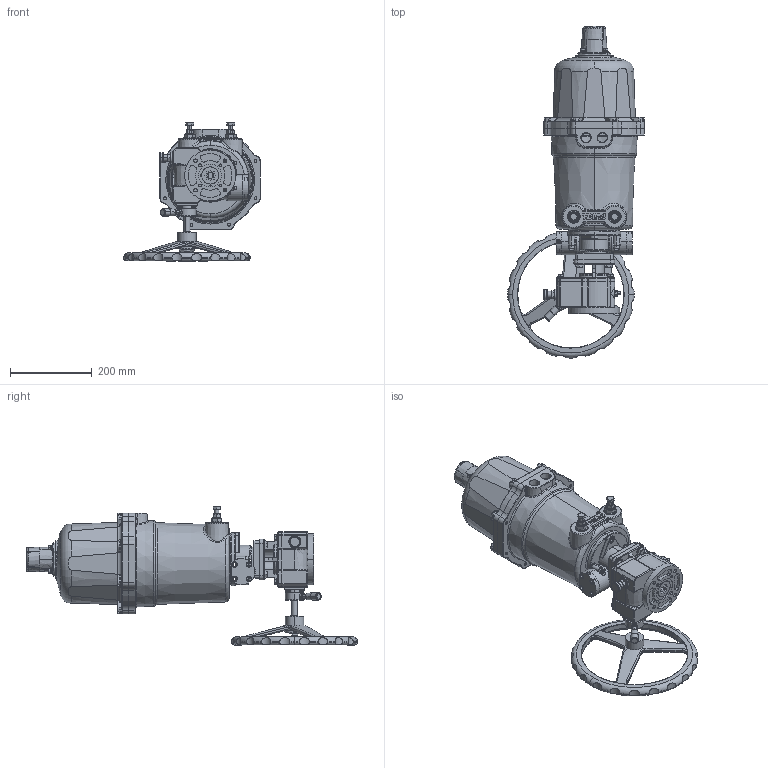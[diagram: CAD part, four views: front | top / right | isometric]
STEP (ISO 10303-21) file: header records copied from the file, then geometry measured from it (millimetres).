
FILE_DESCRIPTION (( 'STEP AP214' ), '1' );
FILE_NAME ('SRX-0600XXX-FC-M.STEP', '2020-02-20T18:46:37', ( '' ), ( '' ), 'SwSTEP 2.0', 'SolidWorks 2019', '' );
FILE_SCHEMA (( 'AUTOMOTIVE_DESIGN' ));
Length unit declared in the file: inch
Products named in the file (1): SRX-0600XXX-FC-M
Bounding box: 335.25 x 812.49 x 338.84 mm (x, y, z)
Surface area: 765837.5 mm2 (no closed solid volume)
Topology: 0 solids, 124 shells, 2007 faces, 6590 edges, 4454 vertices
Faces by surface type: plane 703, cylinder 702, torus 252, bspline 180, cone 152, sphere 18
Entity records: 117020 total; most frequent: CARTESIAN_POINT 35973, DIRECTION 11462, ORIENTED_EDGE 10493, EDGE_CURVE 6559, VERTEX_POINT 4454, AXIS2_PLACEMENT_3D 4419, LINE 2624, VECTOR 2624
